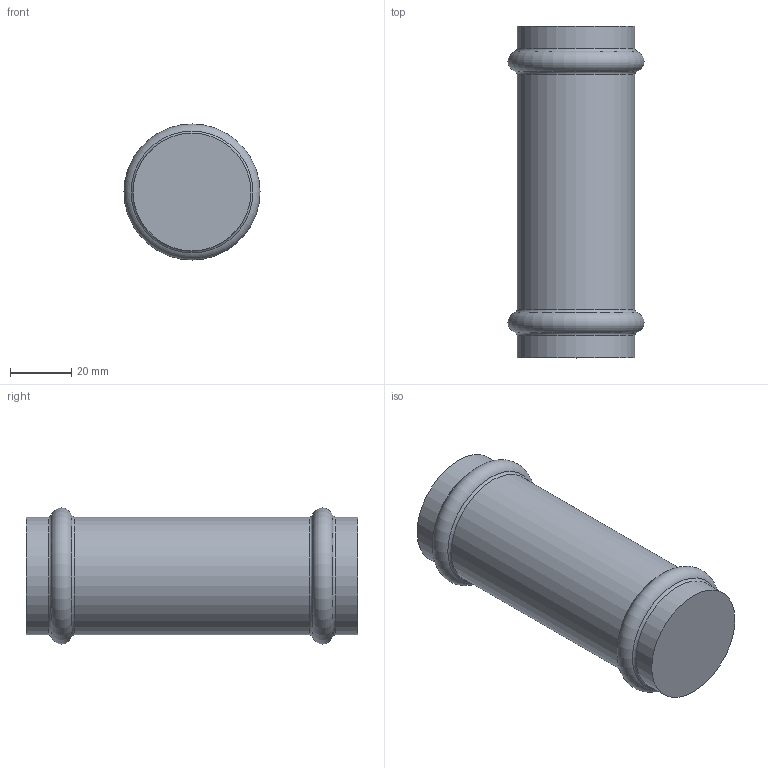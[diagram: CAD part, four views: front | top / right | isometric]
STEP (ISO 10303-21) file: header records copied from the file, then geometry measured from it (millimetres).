
FILE_DESCRIPTION(('STEP AP203'), '1');
FILE_NAME('VTi.904.I.003535', '', ('UNSPECIFIED'), ('UNSPECIFIED'), 'C3D Converter', 'C3D Toolkit', '');
FILE_SCHEMA(('CONFIG_CONTROL_DESIGN'));
Length unit declared in the file: millimetre
Bounding box: 44.3 x 108 x 44.3 mm (x, y, z)
Volume: 128518.7 mm3; surface area: 16166.5 mm2
Topology: 1 solids, 1 shells, 11 faces, 19 edges, 10 vertices
Faces by surface type: torus 6, cylinder 3, plane 2
Full cylindrical faces by diameter (mm): 38.3 x3
Entity records: 254 total; most frequent: DIRECTION 44, CARTESIAN_POINT 32, AXIS2_PLACEMENT_3D 22, EDGE_LOOP 20, ORIENTED_EDGE 20, FACE_OUTER_BOUND 18, ADVANCED_FACE 11, EDGE_CURVE 10
